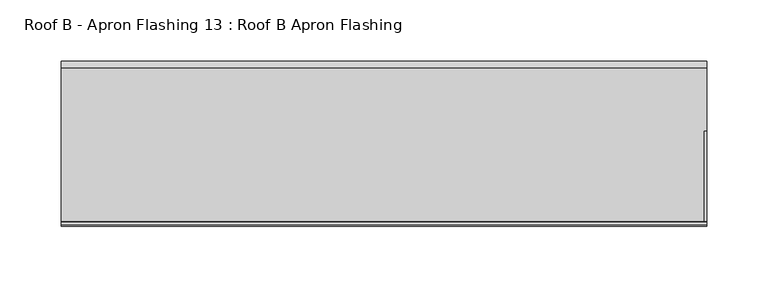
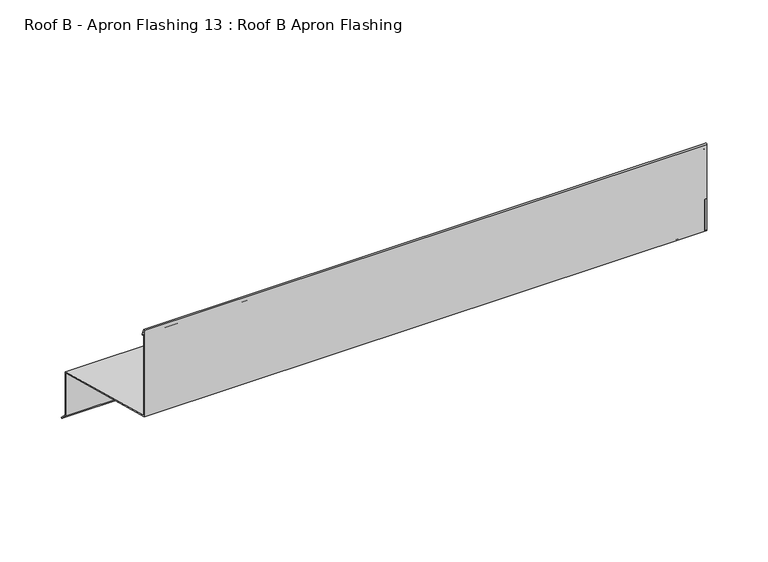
"""IFC4 building model written with IfcOpenShell, lengths in millimetres: proxy geometry, Roof B - Apron Flashing 13 : Roof B Apron Flashing."""

from ifc_helpers import new_model, si_unit, point, frame, frame_2d, origin, place, context, project, spatial, polyline, circle_curve, trimmed, segment, composite_curve, outline, extrude, source, transform, mapped, element, save


def roof_b_apron_flashing_13_roof_b_apron_flashing_3fdaa6fa(model_context):
    return source(origin(), model_context, "Body", "SweptSolid", [
        extrude(outline(polyline([(673.2344915, -388.7215885), (627.9865096, -376.5974283), (627.9865096, -333.9762204), (673.2344915, -346.1003806), (673.2344915, -388.7215885)])), frame((12494.3541786, 0.0, 0.0), z_axis=(1.0, 0.0, 0.0), x_axis=(0.0, 1.0, 0.0)), (0.0, 0.0, 1.0), 2.0),
        extrude(outline(polyline([(622.9865096, -331.6011982), (544.8615096, -310.6676676), (544.8615096, -279.7934577), (622.9865096, -300.7269884), (622.9865096, -331.6011982)])), frame((12494.3541786, 0.0, 0.0), z_axis=(1.0, 0.0, 0.0), x_axis=(0.0, 1.0, 0.0)), (0.0, 0.0, 1.0), 2.0),
        extrude(outline(composite_curve([segment(polyline([(674.2344915, -345.3330536), (674.2344915, -388.338713), (680.2651268, -394.3693483), (679.55802, -395.0764551), (673.2344915, -388.7529266), (673.2344915, -346.1003806), (544.8615096, -311.7029438), (544.8615096, -225.8538686)]), True, "CONTINUOUS"), segment(trimmed(circle_curve(frame_2d((545.5405538, -225.8538686)), 0.6790442), [point((544.8615096, -225.8538686))], [point((546.1701526, -225.5994942))], False, "CARTESIAN"), True, "CONTINUOUS"), segment(polyline([(546.1701526, -225.5994942), (548.5846074, -231.5754797)]), True, "CONTINUOUS"), segment(trimmed(circle_curve(frame_2d((548.1210155, -231.762783)), 0.5), [point((548.5846074, -231.5754797))], [point((547.6574236, -231.9500863))], False, "CARTESIAN"), True, "CONTINUOUS"), segment(polyline([(547.6574236, -231.9500863), (545.8615096, -227.5050431), (545.8615096, -310.9356168), (674.2344915, -345.3330536)]), True, "CONTINUOUS")], self_intersect=False)), frame((11967.4791786, 0.0, 0.0), z_axis=(1.0, 0.0, 0.0), x_axis=(0.0, 1.0, 0.0)), (0.0, 0.0, 1.0), 528.875),
    ])


if __name__ == "__main__":
    model = new_model("IFC4")
    model_context = context("Model", 3, world=origin())
    ifc_project = project(units=[si_unit("LENGTHUNIT", "METRE", prefix="MILLI")], contexts=[model_context])
    site = spatial("IfcSite", under=ifc_project)
    building = spatial("IfcBuilding", under=site)
    placement = place(None, origin())
    roof_b_apron_flashing_13_roof_b_apron_flashing_shape = roof_b_apron_flashing_13_roof_b_apron_flashing_3fdaa6fa(model_context)
    element("IfcBuildingElementProxy", 1, Name="Roof B - Apron Flashing 13 : Roof B Apron Flashing", ObjectType="Roof B - Apron Flashing 13 : Roof B Apron Flashing", at=placement, inside=building, context=model_context, shape_type="MappedRepresentation", body=[
        mapped(roof_b_apron_flashing_13_roof_b_apron_flashing_shape, transform((0.0, 0.0, 0.0), x_axis=(1.0, 0.0, 0.0), y_axis=(0.0, 1.0, 0.0), z_axis=(0.0, 0.0, 1.0))),
    ])
    save(model, "model.ifc")
